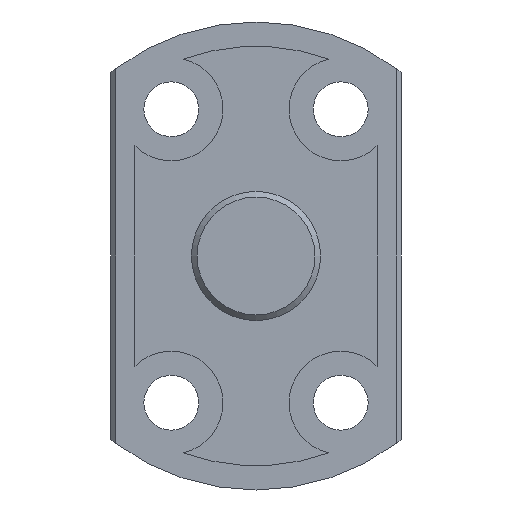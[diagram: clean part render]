
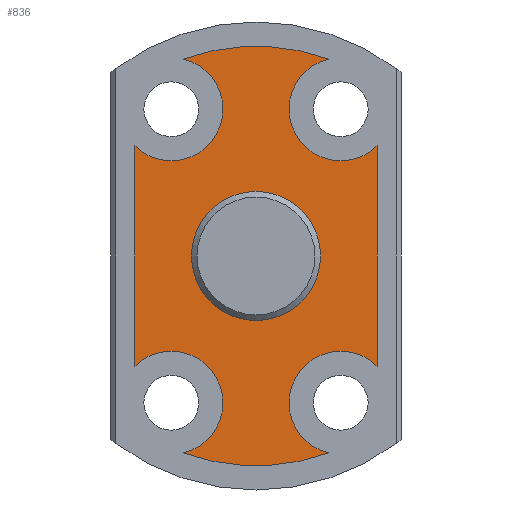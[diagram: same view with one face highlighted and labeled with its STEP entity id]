
A CAD part, left-side view. The second image highlights one B-rep face of the part: STEP entity #836.
In plain terms, the highlighted planar face has unit normal (-1, 0, 0).
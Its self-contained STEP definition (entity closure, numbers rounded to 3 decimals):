
#575=CARTESIAN_POINT('',(152.5,-4.487,-12.201));
#576=VERTEX_POINT('',#575);
#592=CARTESIAN_POINT('',(152.5,-7.5,-6.818));
#593=VERTEX_POINT('',#592);
#600=CARTESIAN_POINT('',(152.5,-5.25,-9.093));
#601=DIRECTION('',(-1.0,0.0,0.0));
#602=DIRECTION('',(0.0,1.0,0.0));
#603=AXIS2_PLACEMENT_3D('',#600,#601,#602);
#604=CIRCLE('',#603,3.2);
#605=EDGE_CURVE('',#593,#576,#604,.T.);
#617=CARTESIAN_POINT('',(152.5,-7.5,6.818));
#618=VERTEX_POINT('',#617);
#634=CARTESIAN_POINT('',(152.5,-4.487,12.201));
#635=VERTEX_POINT('',#634);
#642=CARTESIAN_POINT('',(152.5,-5.25,9.093));
#643=DIRECTION('',(-1.0,0.0,0.0));
#644=DIRECTION('',(0.0,1.0,0.0));
#645=AXIS2_PLACEMENT_3D('',#642,#643,#644);
#646=CIRCLE('',#645,3.2);
#647=EDGE_CURVE('',#635,#618,#646,.T.);
#667=CARTESIAN_POINT('',(152.5,4.487,12.201));
#668=VERTEX_POINT('',#667);
#675=CARTESIAN_POINT('',(152.5,0.0,0.0));
#676=DIRECTION('',(-1.0,0.0,0.0));
#677=DIRECTION('',(0.0,1.0,0.0));
#678=AXIS2_PLACEMENT_3D('',#675,#676,#677);
#679=CIRCLE('',#678,13.);
#680=EDGE_CURVE('',#635,#668,#679,.T.);
#690=CARTESIAN_POINT('',(152.5,7.5,6.818));
#691=VERTEX_POINT('',#690);
#700=CARTESIAN_POINT('',(152.5,5.25,9.093));
#701=DIRECTION('',(-1.0,0.0,0.0));
#702=DIRECTION('',(0.0,1.0,0.0));
#703=AXIS2_PLACEMENT_3D('',#700,#701,#702);
#704=CIRCLE('',#703,3.2);
#705=EDGE_CURVE('',#691,#668,#704,.T.);
#732=CARTESIAN_POINT('',(152.5,7.5,-6.818));
#733=VERTEX_POINT('',#732);
#740=CARTESIAN_POINT('',(152.5,7.5,6.818));
#741=DIRECTION('',(0.0,0.0,-1.0));
#742=VECTOR('',#741,13.636);
#743=LINE('',#740,#742);
#744=EDGE_CURVE('',#691,#733,#743,.T.);
#764=CARTESIAN_POINT('',(152.5,4.487,-12.201));
#765=VERTEX_POINT('',#764);
#772=CARTESIAN_POINT('',(152.5,5.25,-9.093));
#773=DIRECTION('',(-1.0,0.0,0.0));
#774=DIRECTION('',(0.0,1.0,0.0));
#775=AXIS2_PLACEMENT_3D('',#772,#773,#774);
#776=CIRCLE('',#775,3.2);
#777=EDGE_CURVE('',#765,#733,#776,.T.);
#795=CARTESIAN_POINT('',(152.5,-7.5,-6.818));
#796=DIRECTION('',(0.0,0.0,1.0));
#797=VECTOR('',#796,13.636);
#798=LINE('',#795,#797);
#799=EDGE_CURVE('',#593,#618,#798,.T.);
#804=CARTESIAN_POINT('',(152.5,0.,0.0));
#805=DIRECTION('',(1.0,0.0,0.0));
#806=DIRECTION('',(0.0,0.0,-1.0));
#807=AXIS2_PLACEMENT_3D('',#804,#805,#806);
#808=PLANE('',#807);
#809=ORIENTED_EDGE('',*,*,#605,.F.);
#810=ORIENTED_EDGE('',*,*,#799,.T.);
#811=ORIENTED_EDGE('',*,*,#647,.F.);
#812=ORIENTED_EDGE('',*,*,#680,.T.);
#813=ORIENTED_EDGE('',*,*,#705,.F.);
#814=ORIENTED_EDGE('',*,*,#744,.T.);
#815=ORIENTED_EDGE('',*,*,#777,.F.);
#816=CARTESIAN_POINT('',(152.5,0.0,0.0));
#817=DIRECTION('',(-1.0,0.0,0.0));
#818=DIRECTION('',(0.0,1.0,0.0));
#819=AXIS2_PLACEMENT_3D('',#816,#817,#818);
#820=CIRCLE('',#819,13.);
#821=EDGE_CURVE('',#765,#576,#820,.T.);
#822=ORIENTED_EDGE('',*,*,#821,.T.);
#823=EDGE_LOOP('',(#809,#810,#811,#812,#813,#814,#815,#822));
#824=FACE_OUTER_BOUND('',#823,.T.);
#825=CARTESIAN_POINT('',(152.5,0.,4.0));
#826=VERTEX_POINT('',#825);
#827=CARTESIAN_POINT('',(152.5,0.0,0.0));
#828=DIRECTION('',(-1.0,0.0,0.0));
#829=DIRECTION('',(0.0,-1.0,0.0));
#830=AXIS2_PLACEMENT_3D('',#827,#828,#829);
#831=CIRCLE('',#830,4.0);
#832=EDGE_CURVE('',#826,#826,#831,.T.);
#833=ORIENTED_EDGE('',*,*,#832,.F.);
#834=EDGE_LOOP('',(#833));
#835=FACE_BOUND('',#834,.T.);
#836=ADVANCED_FACE('',(#824,#835),#808,.F.);
